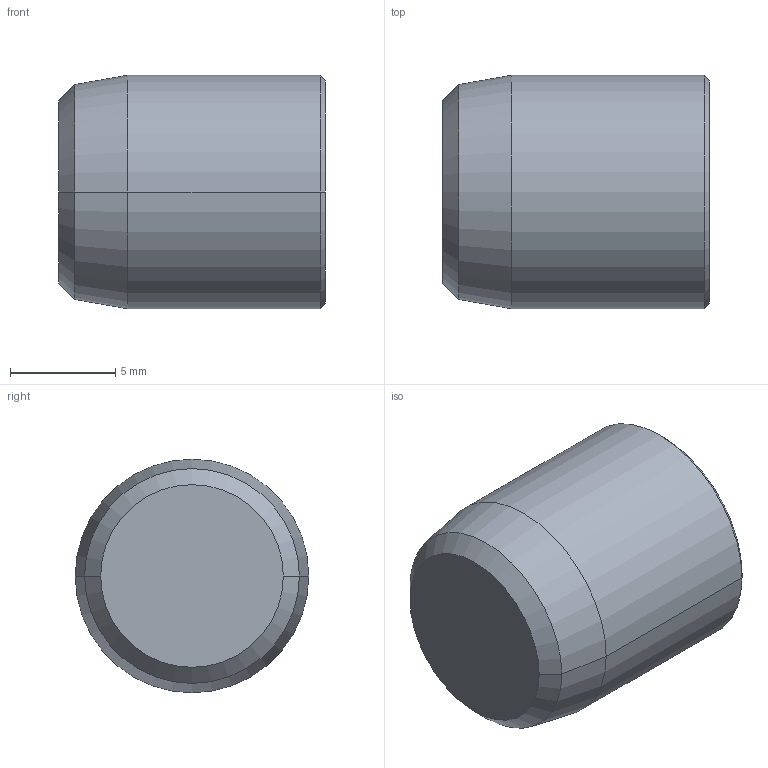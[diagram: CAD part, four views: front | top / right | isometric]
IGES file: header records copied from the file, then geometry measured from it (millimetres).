
Start section:  PTC IGES file: bb60.igs
Global section: file name: bb60.igs; native system: Pro/ENGINEER by Parametric Technology Corporation; preprocessor: 2002350; author: chant; organization: Unknown; date: 070705.144242; units: inch
Bounding box: 12.7 x 11.12 x 11.12 mm (x, y, z)
Surface area: 607.6 mm2 (no closed solid volume)
Topology: 0 solids, 0 shells, 13 faces, 65 edges, 75 vertices
Faces by surface type: revolution 10, bspline 3
